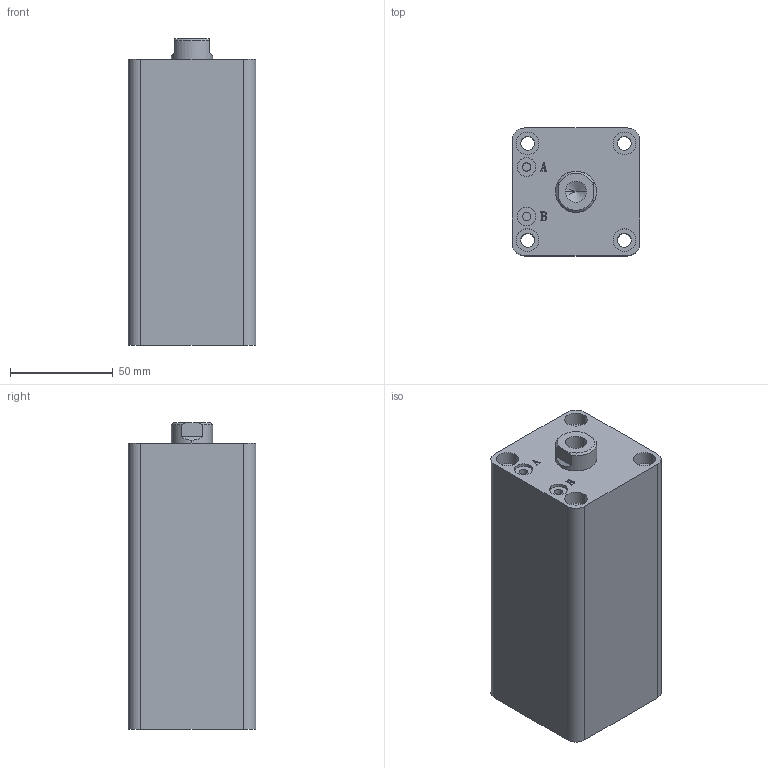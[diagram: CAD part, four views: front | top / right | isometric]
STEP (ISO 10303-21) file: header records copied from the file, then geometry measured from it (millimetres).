
FILE_DESCRIPTION (( 'STEP AP203' ), '1' );
FILE_NAME ('HTB-SDMA32-85N.STEP', '2019-10-07T11:44:42', ( '微软用户' ), ( '微软中国' ), 'SwSTEP 2.0', 'SolidWorks 2012', '' );
FILE_SCHEMA (( 'CONFIG_CONTROL_DESIGN' ));
Length unit declared in the file: millimetre
Products named in the file (3): HTB-SDMA32-85N; HTB-SDMA32-85N活塞杆; HTB-SDMA32-85掛极
Assembly tree (2 placements, depth 2):
  HTB-SDMA32-85N
    HTB-SDMA32-85掛极
    HTB-SDMA32-85N活塞杆
Bounding box: 62 x 62 x 149 mm (x, y, z)
Volume: 466127.5 mm3; surface area: 77795.2 mm2
Topology: 2 solids, 2 shells, 137 faces, 331 edges, 217 vertices
Faces by surface type: plane 65, cylinder 46, bspline 16, torus 6, cone 4
Entity records: 5070 total; most frequent: CARTESIAN_POINT 1576, ORIENTED_EDGE 658, DIRECTION 647, EDGE_CURVE 329, AXIS2_PLACEMENT_3D 232, VERTEX_POINT 217, VECTOR 183, LINE 183
